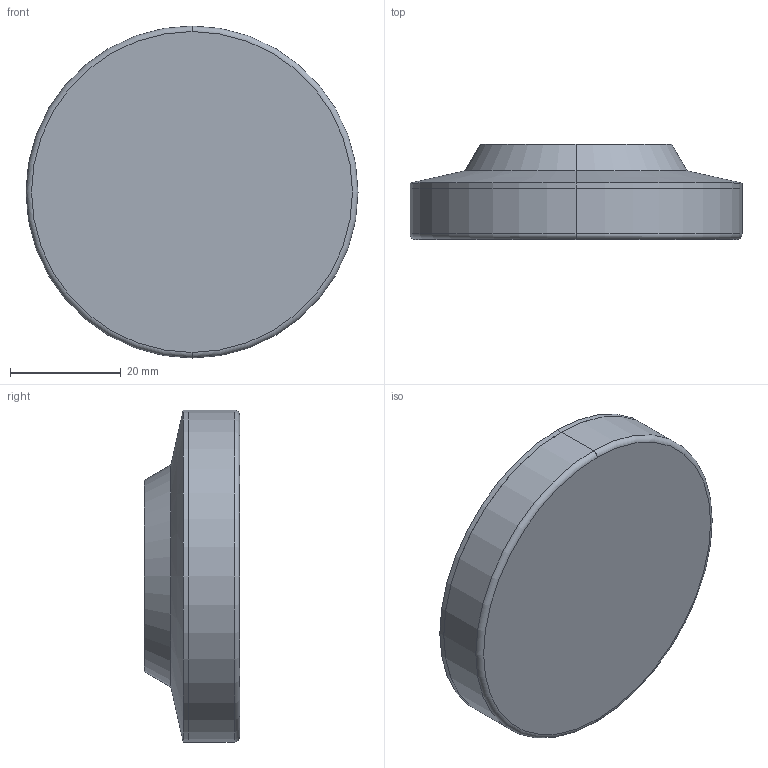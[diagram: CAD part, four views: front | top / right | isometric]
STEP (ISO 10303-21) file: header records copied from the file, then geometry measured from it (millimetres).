
FILE_DESCRIPTION (( 'STEP AP214' ), '1' );
FILE_NAME ('6311.3-60-15,5-R.step', '2023-04-17T05:34:26', ( '' ), ( '' ), 'SwSTEP 2.0', 'SolidWorks 2022', '' );
FILE_SCHEMA (( 'AUTOMOTIVE_DESIGN' ));
Length unit declared in the file: millimetre
Products named in the file (1): 6311.3-60-15,5-R
Bounding box: 60 x 17.2 x 60 mm (x, y, z)
Volume: 35575.1 mm3; surface area: 10384.9 mm2
Topology: 1 solids, 1 shells, 36 faces, 79 edges, 50 vertices
Faces by surface type: cylinder 16, plane 8, torus 6, cone 4, sphere 2
Entity records: 1150 total; most frequent: CARTESIAN_POINT 202, DIRECTION 201, ORIENTED_EDGE 158, AXIS2_PLACEMENT_3D 89, EDGE_CURVE 79, CIRCLE 52, VERTEX_POINT 50, EDGE_LOOP 41
